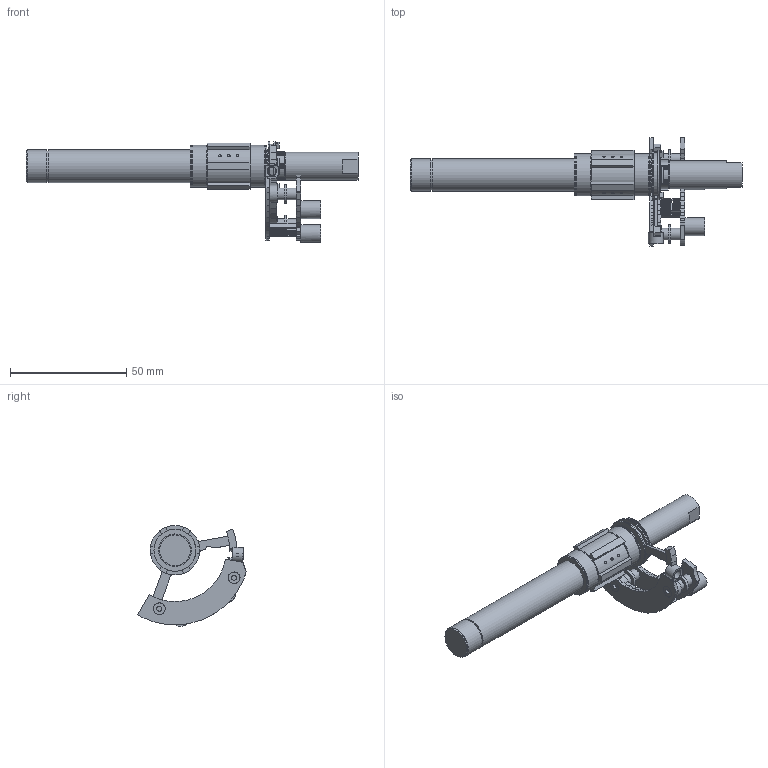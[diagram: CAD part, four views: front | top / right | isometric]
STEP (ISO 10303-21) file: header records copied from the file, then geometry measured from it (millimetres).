
FILE_DESCRIPTION(('Open CASCADE Model'),'2;1');
FILE_NAME('R12_INSTALL_05','2026-09-28T18:28:03',('Author'),( 'Open CASCADE'),'Open CASCADE STEP processor 7.9','build123d', 'Unknown');
FILE_SCHEMA(('AUTOMOTIVE_DESIGN { 1 0 10303 214 1 1 1 1 }'));
Length unit declared in the file: millimetre
Products named in the file (8): R12_INSTALL_05; U_R12_local_12mm_shaft; B3_R12_U_axis_single_sided_dog; B3_R12_U_axis_two_foot_fork; B3_R12_front_support_and_carrier; B3_R12_guide_rod_1_with_stop; B3_R12_guide_rod_2_with_stop; B3_R12_removable_rear_support
Assembly tree (7 placements, depth 2):
  R12_INSTALL_05
    U_R12_local_12mm_shaft
    B3_R12_U_axis_single_sided_dog
    B3_R12_U_axis_two_foot_fork
    B3_R12_front_support_and_carrier
    B3_R12_guide_rod_1_with_stop
    B3_R12_guide_rod_2_with_stop
    B3_R12_removable_rear_support
Bounding box: 142.5 x 46.63 x 43.29 mm (x, y, z)
Volume: 28617.6 mm3; surface area: 14314.7 mm2
Topology: 7 solids, 7 shells, 1062 faces, 2831 edges, 1825 vertices
Faces by surface type: plane 943, cylinder 94, cone 16, sphere 9
Full cylindrical faces by diameter (mm): 1.3 x2, 2.1 x4, 2.6 x2, 4.06 x1, 4.2 x1, 5 x4, 5.08 x6, 6.4 x1, 7.4 x2, 7.6 x2, 8 x2, 11.6 x1, 12 x2, 13.2 x2, 14 x2, 14.2 x2, 17.7 x4, 18 x4, 18.8 x1, 21.2 x2
Entity records: 73332 total; most frequent: CARTESIAN_POINT 15666, DIRECTION 10697, LINE 7872, VECTOR 7872, ORIENTED_EDGE 5656, PCURVE 5656, DEFINITIONAL_REPRESENTATION 5656, EDGE_CURVE 2828
